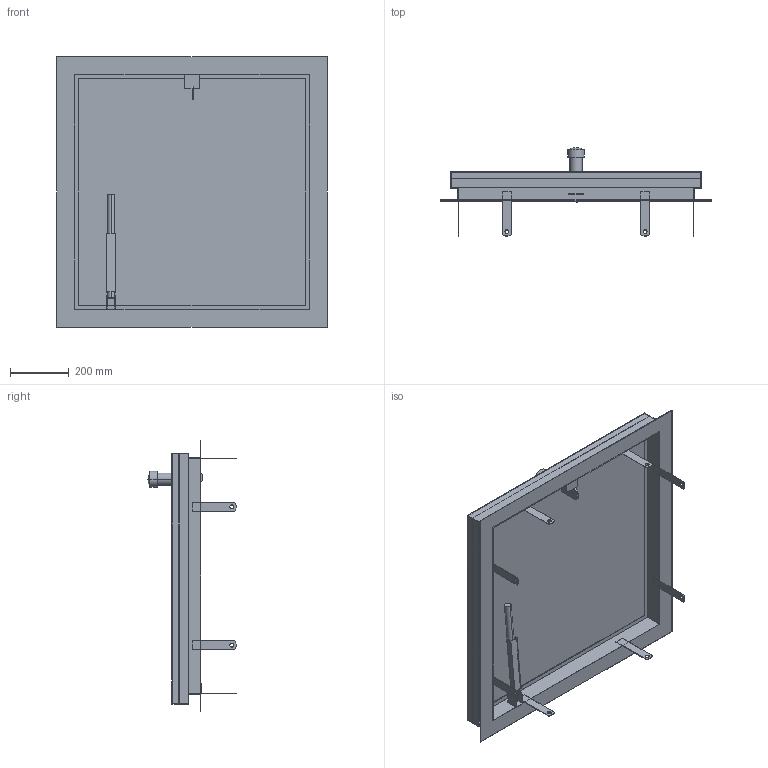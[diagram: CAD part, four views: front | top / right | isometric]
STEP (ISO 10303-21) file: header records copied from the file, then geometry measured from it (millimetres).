
FILE_DESCRIPTION((''),'2;1');
FILE_NAME('52335830','2024-12-19T07:36:47',('wep'),('HUBER SE'),'CREO PARAMETRIC BY PTC INC, 2022162','CREO PARAMETRIC BY PTC INC, 2022162','');
FILE_SCHEMA(('AUTOMOTIVE_DESIGN { 1 0 10303 214 1 1 1 1 }'));
Length unit declared in the file: millimetre
Products named in the file (1): 52335830
Bounding box: 920 x 300 x 920 mm (x, y, z)
Volume: 4003337.6 mm3; surface area: 4293048.5 mm2
Topology: 4 solids, 5 shells, 734 faces, 1996 edges, 1323 vertices
Faces by surface type: plane 422, extrusion 275, cylinder 35, sphere 2
Entity records: 24890 total; most frequent: CARTESIAN_POINT 6656, ORIENTED_EDGE 3988, DIRECTION 2709, EDGE_CURVE 1994, VECTOR 1647, LINE 1372, VERTEX_POINT 1323, B_SPLINE_CURVE_WITH_KNOTS 825
